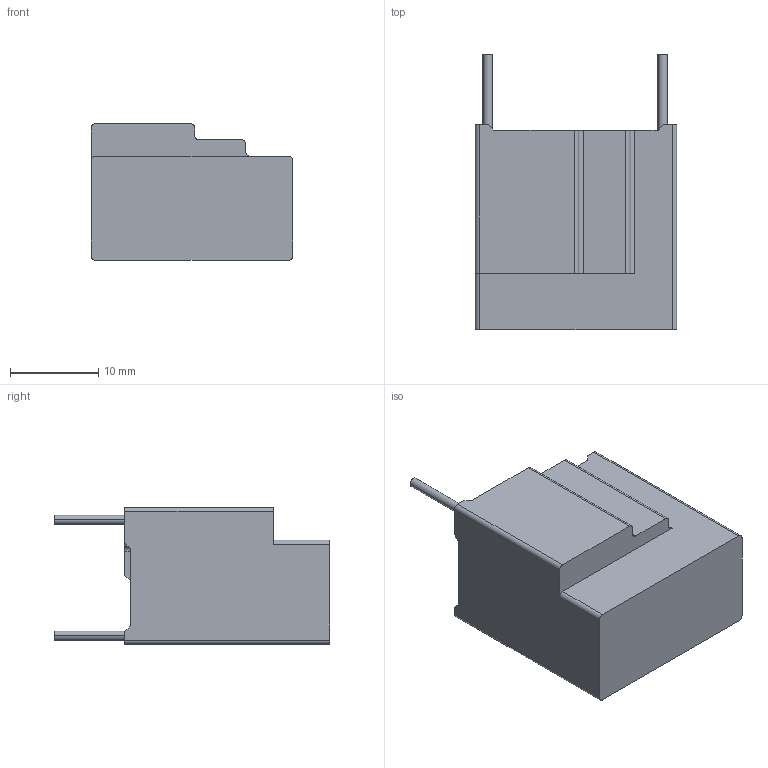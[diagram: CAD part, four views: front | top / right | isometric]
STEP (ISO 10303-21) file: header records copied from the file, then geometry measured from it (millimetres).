
FILE_DESCRIPTION((''),'2;1');
FILE_NAME('20S4701-20200616','2020-06-19T',('set'),(''),'PRO/ENGINEER BY PARAMETRIC TECHNOLOGY CORPORATION, 2012310','PRO/ENGINEER BY PARAMETRIC TECHNOLOGY CORPORATION, 2012310','');
FILE_SCHEMA(('CONFIG_CONTROL_DESIGN','SHAPE_APPEARANCE_LAYERS_GROUPS'));
Length unit declared in the file: millimetre
Products named in the file (1): 20S4701-20200616
Bounding box: 22.8 x 31.2 x 15.5 mm (x, y, z)
Volume: 1712.1 mm3; surface area: 4426.6 mm2
Topology: 1 solids, 2 shells, 101 faces, 285 edges, 190 vertices
Faces by surface type: plane 77, cylinder 24
Entity records: 3296 total; most frequent: CARTESIAN_POINT 576, ORIENTED_EDGE 570, DIRECTION 535, EDGE_CURVE 285, VECTOR 237, LINE 237, VERTEX_POINT 190, AXIS2_PLACEMENT_3D 149
